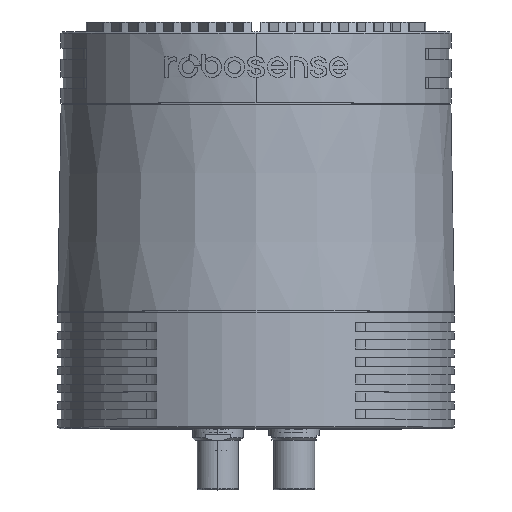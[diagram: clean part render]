
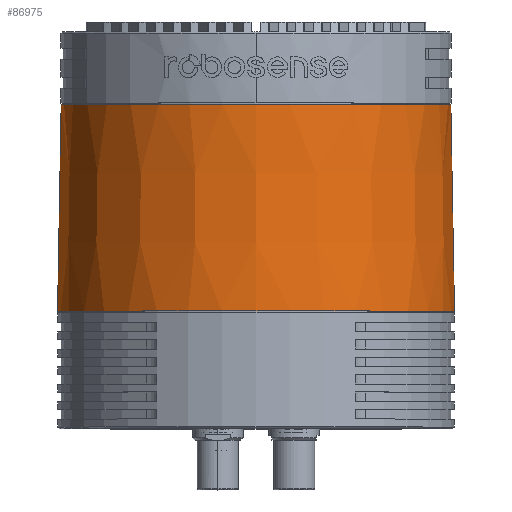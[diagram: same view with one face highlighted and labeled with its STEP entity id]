
A CAD part, top view. The second image highlights one B-rep face of the part: STEP entity #86975.
In plain terms, the highlighted conical face has half-angle 1 degrees and reference radius 62.5 mm.
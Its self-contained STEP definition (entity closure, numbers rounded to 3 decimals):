
#1401 = EDGE_CURVE ( 'NONE', #5793, #29793, #26452, .T. ) ;
#5793 = VERTEX_POINT ( 'NONE', #10938 ) ;
#9393 = CARTESIAN_POINT ( 'NONE',  ( -62.5, 37., 0. ) ) ;
#10938 = CARTESIAN_POINT ( 'NONE',  ( -61.365, 102., 0. ) ) ;
#14856 = DIRECTION ( 'NONE',  ( -1., 0., 0. ) ) ;
#16300 = ORIENTED_EDGE ( 'NONE', *, *, #1401, .T. ) ;
#18386 = VERTEX_POINT ( 'NONE', #45044 ) ;
#20762 = EDGE_CURVE ( 'NONE', #5793, #78191, #30103, .T. ) ;
#21125 = EDGE_LOOP ( 'NONE', ( #63925, #49122, #16300, #104145 ) ) ;
#24573 = AXIS2_PLACEMENT_3D ( 'NONE', #60980, #127740, #14856 ) ;
#25701 = DIRECTION ( 'NONE',  ( 0., 1., 0. ) ) ;
#26452 = LINE ( 'NONE', #138005, #55438 ) ;
#29793 = VERTEX_POINT ( 'NONE', #9393 ) ;
#30103 = CIRCLE ( 'NONE', #79247, 61.365 ) ;
#35884 = EDGE_CURVE ( 'NONE', #78191, #18386, #126588, .T. ) ;
#39036 = CARTESIAN_POINT ( 'NONE',  ( 61.365, 102., 0. ) ) ;
#45044 = CARTESIAN_POINT ( 'NONE',  ( 62.5, 37., 0. ) ) ;
#49122 = ORIENTED_EDGE ( 'NONE', *, *, #20762, .F. ) ;
#50234 = CARTESIAN_POINT ( 'NONE',  ( 62.5, 37., 0. ) ) ;
#52414 = CONICAL_SURFACE ( 'NONE', #127444, 62.5, 0.017 ) ;
#55438 = VECTOR ( 'NONE', #81509, 1000. ) ;
#59073 = CARTESIAN_POINT ( 'NONE',  ( 0., 37., 0. ) ) ;
#60980 = CARTESIAN_POINT ( 'NONE',  ( 0., 37., 0. ) ) ;
#63925 = ORIENTED_EDGE ( 'NONE', *, *, #35884, .F. ) ;
#78191 = VERTEX_POINT ( 'NONE', #39036 ) ;
#78497 = CIRCLE ( 'NONE', #24573, 62.5 ) ;
#79247 = AXIS2_PLACEMENT_3D ( 'NONE', #82883, #25701, #115150 ) ;
#81509 = DIRECTION ( 'NONE',  ( -0.017, -1., 0. ) ) ;
#81855 = DIRECTION ( 'NONE',  ( 0., -1., 0. ) ) ;
#82883 = CARTESIAN_POINT ( 'NONE',  ( 0., 102., 0. ) ) ;
#86975 = ADVANCED_FACE ( 'NONE', ( #127282 ), #52414, .T. ) ;
#95033 = DIRECTION ( 'NONE',  ( 0.017, -1., 0. ) ) ;
#104145 = ORIENTED_EDGE ( 'NONE', *, *, #139024, .T. ) ;
#115150 = DIRECTION ( 'NONE',  ( -1., 0., 0. ) ) ;
#118919 = VECTOR ( 'NONE', #95033, 1000. ) ;
#126556 = DIRECTION ( 'NONE',  ( -1., 0., 0. ) ) ;
#126588 = LINE ( 'NONE', #50234, #118919 ) ;
#127282 = FACE_OUTER_BOUND ( 'NONE', #21125, .T. ) ;
#127444 = AXIS2_PLACEMENT_3D ( 'NONE', #59073, #81855, #126556 ) ;
#127740 = DIRECTION ( 'NONE',  ( 0., 1., 0. ) ) ;
#138005 = CARTESIAN_POINT ( 'NONE',  ( -62.5, 37., 0. ) ) ;
#139024 = EDGE_CURVE ( 'NONE', #29793, #18386, #78497, .T. ) ;
